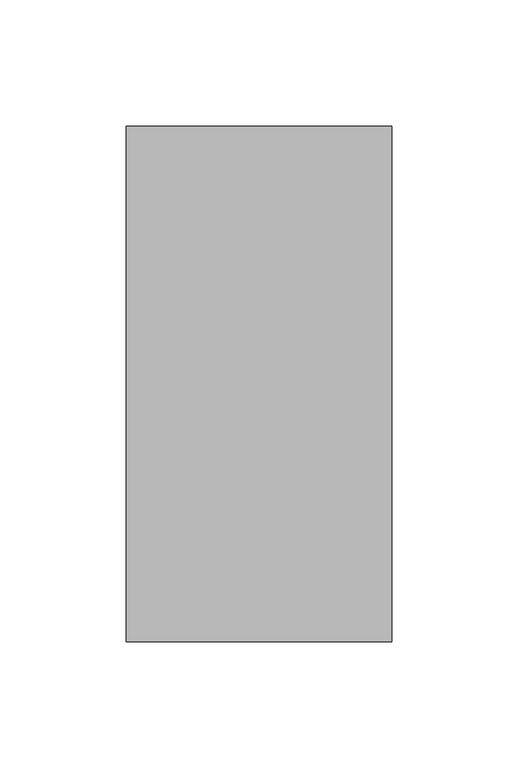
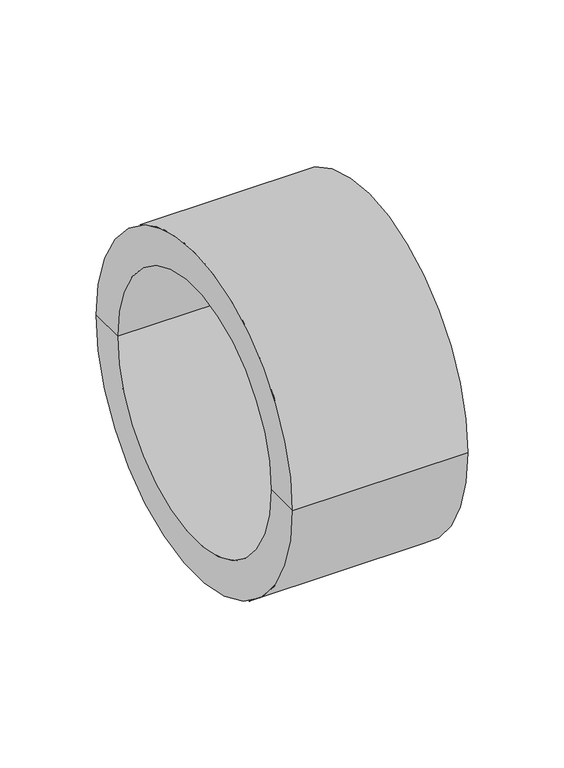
"""IFC4 building model written with IfcOpenShell, lengths in millimetres: pipe fitting geometry, EGB_VASEN_ PPR_Tapon WXR700 : Tapón WXR700."""

from ifc_helpers import new_model, si_unit, frame, origin, place, context, project, spatial, polyline, circle_curve, source, transform, mapped, element, save
from ifc_brep_helpers import plane_surface, cylinder_surface, revolved_surface, advanced_brep


def pipe_fitting_b6c45d04(model_context):
    return source(origin(), model_context, "Body", "AdvancedBrep", [
        advanced_brep(
        [(0.0, -102.0, 0.0), (0.0, 102.0, 0.0), (105.0, 102.0, 0.0), (105.0, -102.0, 0.0), (0.0, -80.0, 0.0), (0.0, 80.0, 0.0), (83.0, -80.0, 0.0), (83.0, 80.0, 0.0), (83.0, 0.0, 0.0), (105.0, 0.0, 0.0)],
        [
            (0, 1, circle_curve(frame((0.0, 0.0, 0.0), z_axis=(1.0, 0.0, 0.0), x_axis=(0.0, 1.0, 0.0)), 102.0)),
            (1, 2),
            (2, 3, circle_curve(frame((105.0, 0.0, 0.0), z_axis=(-1.0, 0.0, 0.0), x_axis=(0.0, 1.0, 0.0)), 102.0)),
            (3, 0),
            (1, 0, circle_curve(frame((0.0, 0.0, 0.0), z_axis=(1.0, 0.0, 0.0), x_axis=(0.0, 1.0, 0.0)), 102.0)),
            (3, 2, circle_curve(frame((105.0, 0.0, 0.0), z_axis=(-1.0, 0.0, 0.0), x_axis=(0.0, 1.0, 0.0)), 102.0)),
            (4, 5, circle_curve(frame((0.0, 0.0, 0.0), z_axis=(1.0, 0.0, 0.0), x_axis=(0.0, 1.0, 0.0)), 80.0)),
            (5, 1),
            (0, 4),
            (5, 4, circle_curve(frame((0.0, 0.0, 0.0), z_axis=(1.0, 0.0, 0.0), x_axis=(0.0, 1.0, 0.0)), 80.0)),
            (6, 7, circle_curve(frame((83.0, 0.0, 0.0), z_axis=(1.0, 0.0, 0.0), x_axis=(0.0, 1.0, 0.0)), 80.0)),
            (7, 5),
            (4, 6),
            (7, 6, circle_curve(frame((83.0, 0.0, 0.0), z_axis=(1.0, 0.0, 0.0), x_axis=(0.0, 1.0, 0.0)), 80.0)),
            (8, 7),
            (6, 8),
            (2, 9),
            (9, 3),
        ],
        [
            cylinder_surface(frame((76.258615, 0.0, 0.0), z_axis=(-1.0, 0.0, 0.0), x_axis=(0.0, 1.0, 0.0)), 102.0),
            plane_surface(frame((0.0, 0.0, 0.0), z_axis=(-1.0, 0.0, 0.0), x_axis=(0.0, 1.0, 0.0))),
            revolved_surface(polyline([(0.0, 80.0, 0.0), (83.0, 80.0, 0.0)]), (76.258615, 0.0, 0.0), (-1.0, 0.0, 0.0)),
            plane_surface(frame((83.0, 0.0, 0.0), z_axis=(-1.0, 0.0, 0.0), x_axis=(0.0, 1.0, 0.0))),
            plane_surface(frame((105.0, 0.0, 0.0), z_axis=(1.0, 0.0, 0.0), x_axis=(0.0, 1.0, 0.0))),
        ],
        [
            (0, [[1, 2, 3, 4]]),
            (0, [[5, -4, 6, -2]]),
            (1, [[7, 8, -1, 9]]),
            (1, [[10, -9, -5, -8]]),
            (2, [[11, 12, -7, 13]]),
            (2, [[14, -13, -10, -12]]),
            (3, [[15, -11, 16]]),
            (3, [[-16, -14, -15]]),
            (4, [[-3, 17, 18]]),
            (4, [[-6, -18, -17]]),
        ],
    ),
    ])


if __name__ == "__main__":
    model = new_model("IFC4")
    model_context = context("Model", 3, world=origin())
    ifc_project = project(units=[si_unit("LENGTHUNIT", "METRE", prefix="MILLI")], contexts=[model_context])
    site = spatial("IfcSite", under=ifc_project)
    building = spatial("IfcBuilding", under=site)
    placement = place(None, origin())
    pipe_fitting_shape = pipe_fitting_b6c45d04(model_context)
    element("IfcPipeFitting", 1, ObjectType="EGB_VASEN_ PPR_Tapon WXR700 : Tapón WXR700", at=placement, inside=building, context=model_context, shape_type="MappedRepresentation", body=[
        mapped(pipe_fitting_shape, transform((0.0, 0.0, 0.0), x_axis=(1.0, 0.0, 0.0), y_axis=(0.0, 1.0, 0.0), z_axis=(0.0, 0.0, 1.0))),
    ])
    save(model, "model.ifc")
